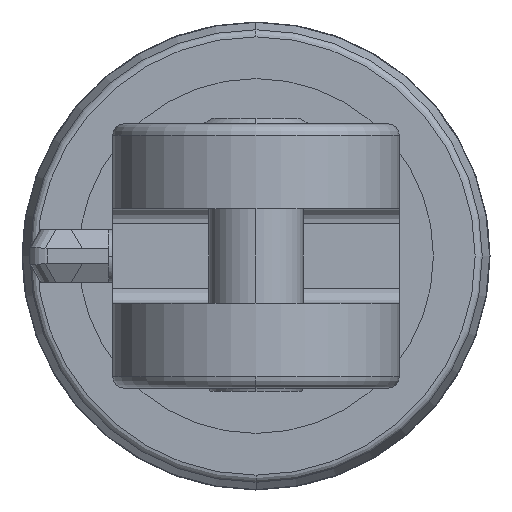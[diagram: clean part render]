
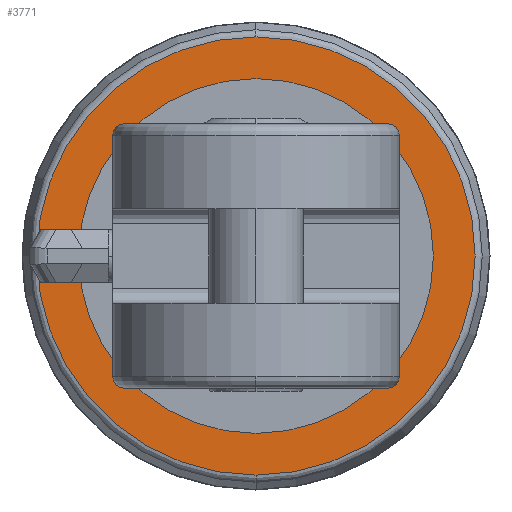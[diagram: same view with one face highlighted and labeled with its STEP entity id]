
A CAD part, left-side view. The second image highlights one B-rep face of the part: STEP entity #3771.
In plain terms, the highlighted planar face has unit normal (-1, 0, 0).
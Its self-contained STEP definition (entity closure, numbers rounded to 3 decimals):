
#192 = DIRECTION ( 'NONE',  ( -1., 0., 0. ) ) ;
#258 = AXIS2_PLACEMENT_3D ( 'NONE', #1926, #4812, #2332 ) ;
#312 = CARTESIAN_POINT ( 'NONE',  ( 192., 0., 58.052 ) ) ;
#369 = CARTESIAN_POINT ( 'NONE',  ( 192., 0., -47. ) ) ;
#462 = VERTEX_POINT ( 'NONE', #2178 ) ;
#550 = ORIENTED_EDGE ( 'NONE', *, *, #5193, .T. ) ;
#702 = ORIENTED_EDGE ( 'NONE', *, *, #4646, .T. ) ;
#922 = FACE_BOUND ( 'NONE', #1156, .T. ) ;
#932 = CARTESIAN_POINT ( 'NONE',  ( 192., 0., 0. ) ) ;
#1156 = EDGE_LOOP ( 'NONE', ( #2129, #3718 ) ) ;
#1350 = DIRECTION ( 'NONE',  ( 0., 0., -1. ) ) ;
#1772 = DIRECTION ( 'NONE',  ( 1., 0., 0. ) ) ;
#1926 = CARTESIAN_POINT ( 'NONE',  ( 192., 0., 0. ) ) ;
#1983 = EDGE_LOOP ( 'NONE', ( #550, #702 ) ) ;
#2129 = ORIENTED_EDGE ( 'NONE', *, *, #2423, .F. ) ;
#2155 = CARTESIAN_POINT ( 'NONE',  ( 192., 0., 0. ) ) ;
#2169 = VERTEX_POINT ( 'NONE', #369 ) ;
#2170 = CARTESIAN_POINT ( 'NONE',  ( 192., 62., 0. ) ) ;
#2178 = CARTESIAN_POINT ( 'NONE',  ( 192., 0., -58.052 ) ) ;
#2332 = DIRECTION ( 'NONE',  ( 0., 0., -1. ) ) ;
#2359 = AXIS2_PLACEMENT_3D ( 'NONE', #2155, #5056, #2570 ) ;
#2381 = AXIS2_PLACEMENT_3D ( 'NONE', #2663, #192, #3063 ) ;
#2423 = EDGE_CURVE ( 'NONE', #2169, #5335, #3191, .T. ) ;
#2570 = DIRECTION ( 'NONE',  ( 0., 0., -1. ) ) ;
#2663 = CARTESIAN_POINT ( 'NONE',  ( 192., 0., 0. ) ) ;
#2883 = VERTEX_POINT ( 'NONE', #312 ) ;
#2899 = CIRCLE ( 'NONE', #4887, 58.052 ) ;
#3063 = DIRECTION ( 'NONE',  ( 0., 0., -1. ) ) ;
#3095 = FACE_OUTER_BOUND ( 'NONE', #1983, .T. ) ;
#3191 = CIRCLE ( 'NONE', #2381, 47. ) ;
#3220 = CIRCLE ( 'NONE', #258, 47. ) ;
#3718 = ORIENTED_EDGE ( 'NONE', *, *, #4891, .F. ) ;
#3771 = ADVANCED_FACE ( 'NONE', ( #922, #3095 ), #4256, .F. ) ;
#3811 = DIRECTION ( 'NONE',  ( -1., 0., 0. ) ) ;
#3817 = AXIS2_PLACEMENT_3D ( 'NONE', #2170, #1772, #4662 ) ;
#4256 = PLANE ( 'NONE',  #3817 ) ;
#4646 = EDGE_CURVE ( 'NONE', #2883, #462, #2899, .T. ) ;
#4662 = DIRECTION ( 'NONE',  ( 0., 0., -1. ) ) ;
#4782 = CARTESIAN_POINT ( 'NONE',  ( 192., 0., 47. ) ) ;
#4812 = DIRECTION ( 'NONE',  ( -1., 0., 0. ) ) ;
#4887 = AXIS2_PLACEMENT_3D ( 'NONE', #932, #3811, #1350 ) ;
#4891 = EDGE_CURVE ( 'NONE', #5335, #2169, #3220, .T. ) ;
#5056 = DIRECTION ( 'NONE',  ( -1., 0., 0. ) ) ;
#5193 = EDGE_CURVE ( 'NONE', #462, #2883, #5226, .T. ) ;
#5226 = CIRCLE ( 'NONE', #2359, 58.052 ) ;
#5335 = VERTEX_POINT ( 'NONE', #4782 ) ;
